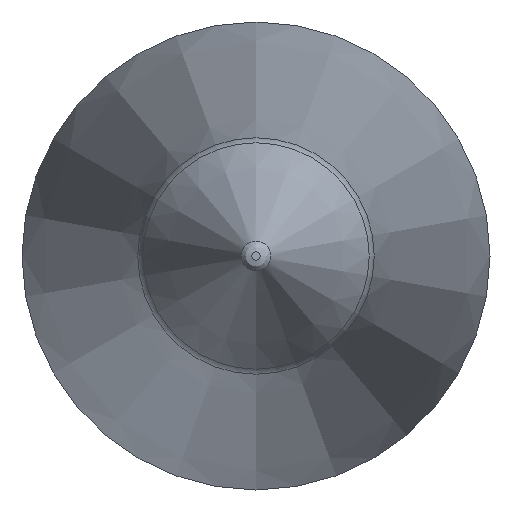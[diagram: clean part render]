
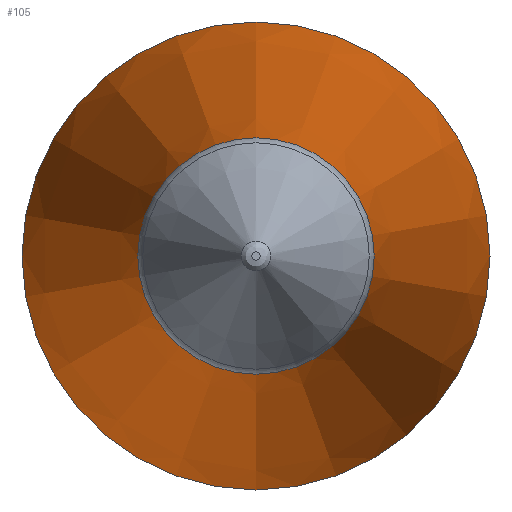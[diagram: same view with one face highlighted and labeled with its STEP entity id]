
A CAD part, front view. The second image highlights one B-rep face of the part: STEP entity #105.
In plain terms, the highlighted conical face has half-angle 7.595 degrees and reference radius 15 mm.
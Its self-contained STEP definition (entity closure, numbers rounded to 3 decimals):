
#18=CONICAL_SURFACE('',#140,15.,0.133);
#29=FACE_OUTER_BOUND('',#37,.T.);
#37=EDGE_LOOP('',(#92,#93,#94,#95));
#42=LINE('',#231,#45);
#45=VECTOR('',#175,15.);
#53=CIRCLE('',#139,10.101);
#54=CIRCLE('',#141,20.);
#60=VERTEX_POINT('',#226);
#61=VERTEX_POINT('',#230);
#71=EDGE_CURVE('',#60,#60,#53,.T.);
#72=EDGE_CURVE('',#60,#61,#42,.T.);
#73=EDGE_CURVE('',#61,#61,#54,.T.);
#92=ORIENTED_EDGE('',*,*,#71,.F.);
#93=ORIENTED_EDGE('',*,*,#72,.T.);
#94=ORIENTED_EDGE('',*,*,#73,.T.);
#95=ORIENTED_EDGE('',*,*,#72,.F.);
#105=ADVANCED_FACE('',(#29),#18,.T.);
#139=AXIS2_PLACEMENT_3D('',#228,#171,#172);
#140=AXIS2_PLACEMENT_3D('',#229,#173,#174);
#141=AXIS2_PLACEMENT_3D('',#232,#176,#177);
#171=DIRECTION('center_axis',(0.,-1.,0.));
#172=DIRECTION('ref_axis',(0.,0.,1.));
#173=DIRECTION('center_axis',(0.,1.,0.));
#174=DIRECTION('ref_axis',(0.,0.,-1.));
#175=DIRECTION('',(0.,0.991,0.132));
#176=DIRECTION('center_axis',(0.,-1.,0.));
#177=DIRECTION('ref_axis',(1.,0.,0.));
#226=CARTESIAN_POINT('',(0.,-74.241,10.101));
#228=CARTESIAN_POINT('Origin',(0.,-74.241,
0.));
#229=CARTESIAN_POINT('Origin',(0.,-37.5,0.));
#230=CARTESIAN_POINT('',(0.,0.,20.));
#231=CARTESIAN_POINT('',(0.,-37.5,15.));
#232=CARTESIAN_POINT('Origin',(0.,0.,0.));
